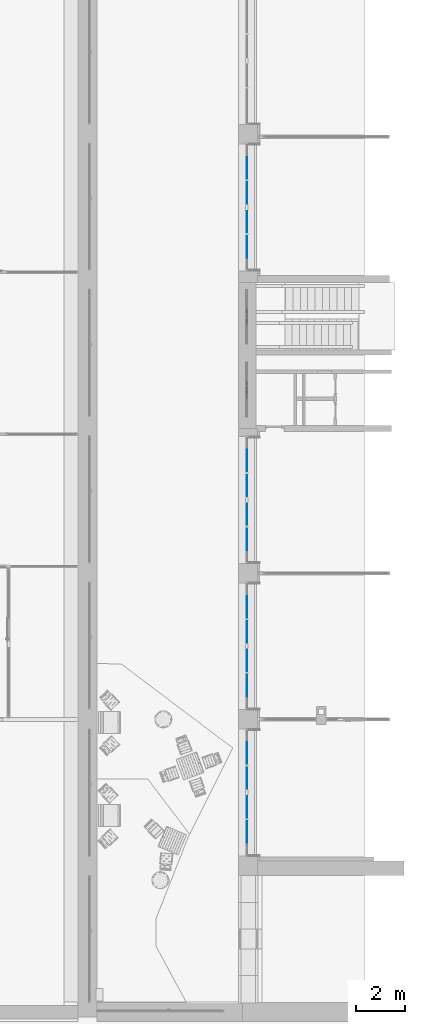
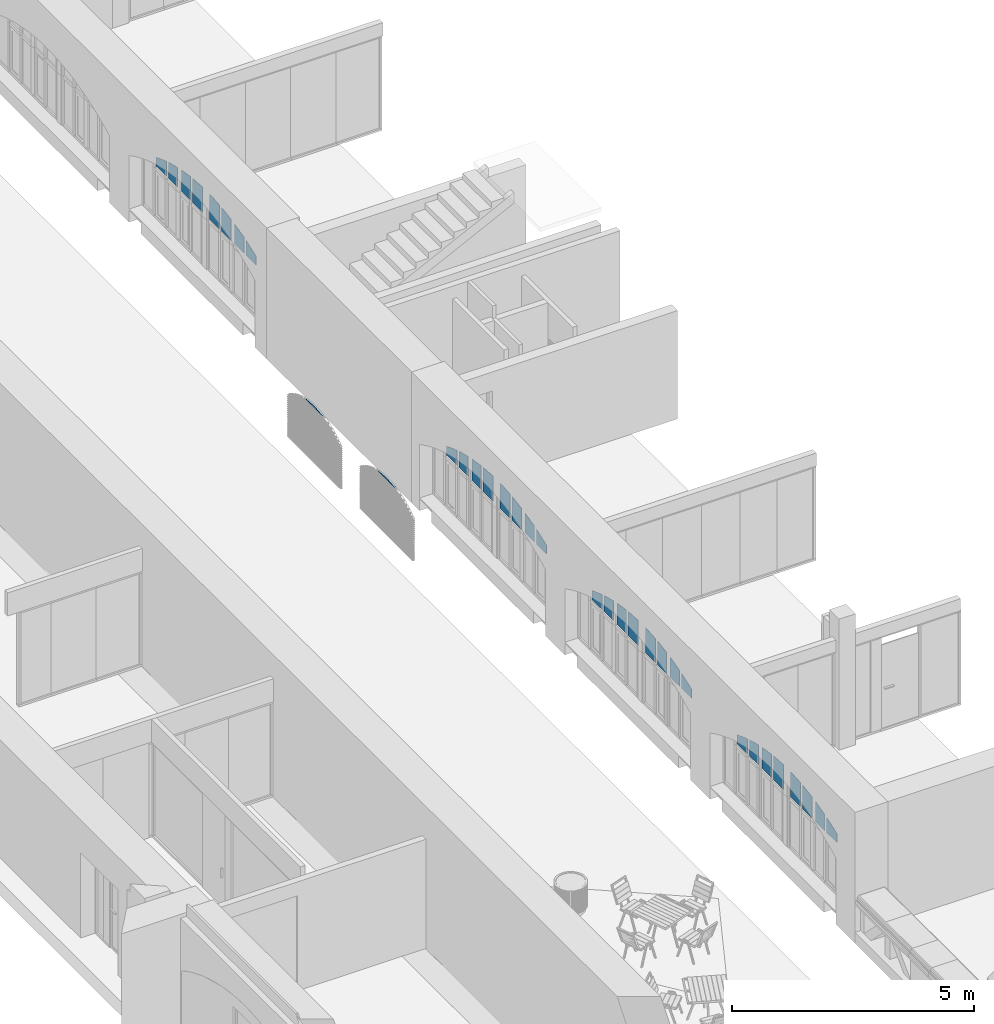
# One storey, part 68 of 88: 34 plates, 6 elements without a shape of their own.
"""IFC2X3 building model written with IfcOpenShell, lengths in millimetres."""

from ifc_helpers import new_model, entity, si_unit, converted_unit, derived_unit, direction, frame, frame_2d, origin, place, context, subcontext, project, spatial, polyline, circle_curve, parameter, trimmed, segment, composite_curve, outline, extrude, source, transform, mapped, material, type_object, type_shapes, element, aggregate, save


model = new_model("IFC2X3")

# Units and contexts
model_context = context("Model", 3, precision=0.01, world=origin(), true_north=direction((6.123031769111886e-17, 1.0)))
body_context = subcontext(model_context, "Body", "Model", "MODEL_VIEW")
ifc_project = project(units=[si_unit("LENGTHUNIT", "METRE", prefix="MILLI"), si_unit("AREAUNIT", "SQUARE_METRE"), si_unit("VOLUMEUNIT", "CUBIC_METRE"), converted_unit("PLANEANGLEUNIT", "DEGREE", entity("IfcPlaneAngleMeasure", 0.017453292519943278), si_unit("PLANEANGLEUNIT", "RADIAN"), dimensions=[0, 0, 0, 0, 0, 0, 0]), si_unit("MASSUNIT", "GRAM", prefix="KILO"), derived_unit("MASSDENSITYUNIT", [(si_unit("MASSUNIT", "GRAM", prefix="KILO"), 1), (si_unit("LENGTHUNIT", "METRE"), -3)]), derived_unit("IONCONCENTRATIONUNIT", [(si_unit("MASSUNIT", "GRAM", prefix="KILO"), 1), (si_unit("LENGTHUNIT", "METRE"), -3)]), derived_unit("MOMENTOFINERTIAUNIT", [(si_unit("LENGTHUNIT", "METRE"), 4)]), si_unit("TIMEUNIT", "SECOND"), si_unit("FREQUENCYUNIT", "HERTZ"), si_unit("THERMODYNAMICTEMPERATUREUNIT", "DEGREE_CELSIUS"), derived_unit("THERMALTRANSMITTANCEUNIT", [(si_unit("MASSUNIT", "GRAM", prefix="KILO"), 1), (si_unit("THERMODYNAMICTEMPERATUREUNIT", "KELVIN"), -1), (si_unit("TIMEUNIT", "SECOND"), -3)]), derived_unit("THERMALCONDUCTANCEUNIT", [(si_unit("MASSUNIT", "GRAM", prefix="KILO"), 1), (si_unit("THERMODYNAMICTEMPERATUREUNIT", "KELVIN"), -1), (si_unit("TIMEUNIT", "SECOND"), -3), (si_unit("LENGTHUNIT", "METRE"), 1)]), derived_unit("VOLUMETRICFLOWRATEUNIT", [(si_unit("LENGTHUNIT", "METRE", prefix="DECI"), 3), (si_unit("TIMEUNIT", "SECOND"), -1)]), derived_unit("MASSFLOWRATEUNIT", [(si_unit("MASSUNIT", "GRAM", prefix="KILO"), 1), (si_unit("TIMEUNIT", "SECOND"), -1)]), derived_unit("ROTATIONALFREQUENCYUNIT", [(si_unit("TIMEUNIT", "SECOND"), -1)]), si_unit("ELECTRICCURRENTUNIT", "AMPERE"), si_unit("ELECTRICVOLTAGEUNIT", "VOLT"), si_unit("POWERUNIT", "WATT"), si_unit("FORCEUNIT", "NEWTON", prefix="KILO"), si_unit("ILLUMINANCEUNIT", "LUX"), si_unit("LUMINOUSFLUXUNIT", "LUMEN"), si_unit("LUMINOUSINTENSITYUNIT", "CANDELA"), si_unit("ENERGYUNIT", "JOULE"), derived_unit("USERDEFINED", [(si_unit("MASSUNIT", "GRAM", prefix="KILO"), -1), (si_unit("LENGTHUNIT", "METRE"), -2), (si_unit("TIMEUNIT", "SECOND"), 3), (si_unit("LUMINOUSFLUXUNIT", "LUMEN"), 1)]), derived_unit("USERDEFINED", [(si_unit("MASSUNIT", "GRAM", prefix="KILO"), 1), (si_unit("TIMEUNIT", "SECOND"), -3), (si_unit("LENGTHUNIT", "METRE"), 3), (si_unit("ELECTRICCURRENTUNIT", "AMPERE"), -2)]), derived_unit("SOUNDPOWERUNIT", [(si_unit("MASSUNIT", "GRAM", prefix="KILO"), 1), (si_unit("TIMEUNIT", "SECOND"), -3), (si_unit("LENGTHUNIT", "METRE"), 2)]), derived_unit("SOUNDPRESSUREUNIT", [(si_unit("MASSUNIT", "GRAM", prefix="KILO"), 1), (si_unit("LENGTHUNIT", "METRE"), -1), (si_unit("TIMEUNIT", "SECOND"), -2)]), derived_unit("LINEARVELOCITYUNIT", [(si_unit("LENGTHUNIT", "METRE"), 1), (si_unit("TIMEUNIT", "SECOND"), -1)]), si_unit("PRESSUREUNIT", "PASCAL"), derived_unit("USERDEFINED", [(si_unit("MASSUNIT", "GRAM", prefix="KILO"), 1), (si_unit("LENGTHUNIT", "METRE"), -2), (si_unit("TIMEUNIT", "SECOND"), -2)]), derived_unit("LINEARFORCEUNIT", [(si_unit("MASSUNIT", "GRAM", prefix="KILO"), 1), (si_unit("TIMEUNIT", "SECOND"), -2)]), derived_unit("PLANARFORCEUNIT", [(si_unit("MASSUNIT", "GRAM", prefix="KILO"), 1), (si_unit("LENGTHUNIT", "METRE"), -1), (si_unit("TIMEUNIT", "SECOND"), -2)]), derived_unit("SPECIFICHEATCAPACITYUNIT", [(si_unit("THERMODYNAMICTEMPERATUREUNIT", "KELVIN"), -1), (si_unit("LENGTHUNIT", "METRE"), 2), (si_unit("TIMEUNIT", "SECOND"), -2)]), derived_unit("HEATFLUXDENSITYUNIT", [(si_unit("MASSUNIT", "GRAM", prefix="KILO"), 1), (si_unit("TIMEUNIT", "SECOND"), -3)]), derived_unit("HEATINGVALUEUNIT", [(si_unit("LENGTHUNIT", "METRE"), 2), (si_unit("TIMEUNIT", "SECOND"), -2)]), derived_unit("VAPORPERMEABILITYUNIT", [(si_unit("LENGTHUNIT", "METRE"), -1), (si_unit("TIMEUNIT", "SECOND"), 1)]), derived_unit("DYNAMICVISCOSITYUNIT", [(si_unit("MASSUNIT", "GRAM", prefix="KILO"), 1), (si_unit("TIMEUNIT", "SECOND"), -1), (si_unit("LENGTHUNIT", "METRE"), -1)]), derived_unit("THERMALEXPANSIONCOEFFICIENTUNIT", [(si_unit("THERMODYNAMICTEMPERATUREUNIT", "KELVIN"), -1)]), derived_unit("MODULUSOFELASTICITYUNIT", [(si_unit("MASSUNIT", "GRAM", prefix="KILO"), 1), (si_unit("LENGTHUNIT", "METRE"), -1), (si_unit("TIMEUNIT", "SECOND"), -2)]), derived_unit("ISOTHERMALMOISTURECAPACITYUNIT", [(si_unit("MASSUNIT", "GRAM", prefix="KILO"), -1), (si_unit("LENGTHUNIT", "METRE"), 3)]), derived_unit("MOISTUREDIFFUSIVITYUNIT", [(si_unit("TIMEUNIT", "SECOND"), -1), (si_unit("LENGTHUNIT", "METRE"), 2)]), derived_unit("MASSPERLENGTHUNIT", [(si_unit("MASSUNIT", "GRAM", prefix="KILO"), 1), (si_unit("LENGTHUNIT", "METRE"), -1)]), derived_unit("THERMALRESISTANCEUNIT", [(si_unit("MASSUNIT", "GRAM", prefix="KILO"), -1), (si_unit("TIMEUNIT", "SECOND"), 3), (si_unit("THERMODYNAMICTEMPERATUREUNIT", "KELVIN"), 1)]), derived_unit("ACCELERATIONUNIT", [(si_unit("LENGTHUNIT", "METRE"), 1), (si_unit("TIMEUNIT", "SECOND"), -2)]), derived_unit("ANGULARVELOCITYUNIT", [(si_unit("TIMEUNIT", "SECOND"), -1), (si_unit("PLANEANGLEUNIT", "RADIAN"), 1)]), derived_unit("LINEARSTIFFNESSUNIT", [(si_unit("MASSUNIT", "GRAM", prefix="KILO"), 1), (si_unit("TIMEUNIT", "SECOND"), -2)]), derived_unit("WARPINGCONSTANTUNIT", [(si_unit("LENGTHUNIT", "METRE"), 6)]), derived_unit("LINEARMOMENTUNIT", [(si_unit("MASSUNIT", "GRAM", prefix="KILO"), 1), (si_unit("LENGTHUNIT", "METRE"), 1), (si_unit("TIMEUNIT", "SECOND"), -2)]), derived_unit("TORQUEUNIT", [(si_unit("MASSUNIT", "GRAM", prefix="KILO"), 1), (si_unit("LENGTHUNIT", "METRE"), 2), (si_unit("TIMEUNIT", "SECOND"), -2)])], contexts=[model_context])

# Site, building, storey
site_placement = place(None, origin())
site = spatial("IfcSite", under=ifc_project, at=site_placement, Name="Default", CompositionType="ELEMENT")
building_placement = place(site_placement, origin())
building = spatial("IfcBuilding", under=site, at=building_placement, Name="Eesti Rahvusraamatukogu hoone renoveerimise projekteerimistööd", CompositionType="ELEMENT")
storey_placement = place(building_placement, origin())
storey = spatial("IfcBuildingStorey", under=building, at=storey_placement, Name="1. korrus", CompositionType="ELEMENT", Elevation=0.0)

# Curtain wall, plate
curtain_wall_type_1 = type_object("IfcCurtainWallType", Name="Curtain Wall:ol. olev MK vent. rest", PredefinedType="NOTDEFINED")
curtain_wall_1_placement = place(storey_placement, origin())
curtain_wall_1 = element("IfcCurtainWall", 1, at=curtain_wall_1_placement, inside=storey, type_object=curtain_wall_type_1, Name="Curtain Wall:ol. olev MK vent. rest", ObjectType="Curtain Wall:ol. olev MK vent. rest")
ifc_material_1 = material(Name="LUMION_dark steel window frames")
plate_type_1 = type_object("IfcPlateType", Name="System Panel:Solid", PredefinedType="CURTAIN_PANEL", material=ifc_material_1)
shared_shape_1 = source(origin(), body_context, "Body", "SweptSolid", [
    extrude(outline(composite_curve([segment(trimmed(circle_curve(frame_2d((0.0, 1782.877971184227), x_axis=(-0.22633799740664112, -0.9740488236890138)), 1814.9788061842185), [parameter(2.289563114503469)], [parameter(23.873576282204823)], True, "PARAMETER"), True, "CONTINUOUS"), segment(polyline([(339.8443861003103, 0.0), (-339.84438610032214, 0.0)]), True, "CONTINUOUS")], self_intersect=False)), frame((0.0, -25.0, 0.0), z_axis=(0.0, -1.0, 0.0), x_axis=(-1.0, 0.0, 0.0)), (0.0, 0.0, -1.0), 50.0),
])
type_shapes(plate_type_1, [shared_shape_1])
plate_1_placement = place(curtain_wall_1_placement, frame((-36445.0, 25908.977190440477, 1170.0), z_axis=(0.0, 0.0, 1.0), x_axis=(0.0, -1.0, 0.0)))
plate_1 = element("IfcPlate", 2, at=plate_1_placement, type_object=plate_type_1, material=ifc_material_1, Name="System Panel:Solid", ObjectType="System Panel:Solid", context=body_context, shape_type="MappedRepresentation", body=[
    mapped(shared_shape_1, transform((0.0, 0.0, 0.0), scale=1.0)),
])
aggregate(curtain_wall_1, [plate_1])

curtain_wall_2_placement = place(storey_placement, origin())
curtain_wall_2 = element("IfcCurtainWall", 3, at=curtain_wall_2_placement, inside=storey, type_object=curtain_wall_type_1, Name="Curtain Wall:ol. olev MK vent. rest", ObjectType="Curtain Wall:ol. olev MK vent. rest")
plate_2_placement = place(curtain_wall_2_placement, frame((-36445.0, 28897.61153148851, 1170.0), z_axis=(0.0, 0.0, 1.0), x_axis=(0.0, -1.0, 0.0)))
plate_2 = element("IfcPlate", 4, at=plate_2_placement, type_object=plate_type_1, material=ifc_material_1, Name="System Panel:Solid", ObjectType="System Panel:Solid", context=body_context, shape_type="MappedRepresentation", body=[
    mapped(shared_shape_1, transform((0.0, 0.0, 0.0), scale=1.0)),
])
aggregate(curtain_wall_2, [plate_2])

curtain_wall_type_2 = type_object("IfcCurtainWallType", Name="Curtain Wall:Ak-02", PredefinedType="NOTDEFINED")
curtain_wall_3_placement = place(storey_placement, origin())
curtain_wall_3 = element("IfcCurtainWall", 5, at=curtain_wall_3_placement, inside=storey, type_object=curtain_wall_type_2, Name="Curtain Wall:Ak-02", ObjectType="Curtain Wall:Ak-02")
ifc_material_2 = material(Name="EST. Klaas. 3x. Default")
plate_type_2 = type_object("IfcPlateType", Name="System Panel:Peegelaknad 6-16-4-16-4, paneel", PredefinedType="CURTAIN_PANEL", material=ifc_material_2)
shared_shape_2 = source(origin(), body_context, "Body", "SweptSolid", [
    extrude(outline(composite_curve([segment(polyline([(-150.7552484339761, -210.0), (74.7524576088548, -210.0)]), True, "CONTINUOUS"), segment(trimmed(circle_curve(frame_2d((-4960.899149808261, 1850.0), x_axis=(0.9570819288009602, -0.28981749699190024)), 5440.715680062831), [parameter(354.5983894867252)], [parameter(359.30346163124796)], True, "PARAMETER"), True, "CONTINUOUS"), segment(polyline([(226.7580392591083, 210.0), (-150.7552484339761, 210.0)]), True, "CONTINUOUS"), segment(polyline([(-150.7552484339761, 210.0), (-150.7552484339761, -210.0)]), True, "CONTINUOUS")], self_intersect=False)), frame((0.0, -5.0, 150.7552484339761), z_axis=(0.0, 1.0, 0.0), x_axis=(0.0, 0.0, 1.0)), (0.0, 0.0, 1.0), 10.0),
])
type_shapes(plate_type_2, [shared_shape_2])
plate_3_placement = place(curtain_wall_3_placement, frame((-36440.0, 35240.0, 3270.0), z_axis=(0.0, 0.0, 1.0), x_axis=(0.0, -1.0, 0.0)))
plate_3 = element("IfcPlate", 6, at=plate_3_placement, type_object=plate_type_2, material=ifc_material_2, Name="System Panel:Peegelaknad 6-16-4-16-4, paneel", ObjectType="System Panel:Peegelaknad 6-16-4-16-4, paneel", context=body_context, shape_type="MappedRepresentation", body=[
    mapped(shared_shape_2, transform((0.0, 0.0, 0.0), scale=1.0)),
])

curtain_wall_4_placement = place(storey_placement, origin())
curtain_wall_4 = element("IfcCurtainWall", 7, at=curtain_wall_4_placement, inside=storey, type_object=curtain_wall_type_2, Name="Curtain Wall:Ak-02", ObjectType="Curtain Wall:Ak-02")
plate_4_placement = place(curtain_wall_4_placement, frame((-36440.0, 23240.0, 3260.0), z_axis=(0.0, 0.0, 1.0), x_axis=(0.0, -1.0, 0.0)))
plate_4 = element("IfcPlate", 8, at=plate_4_placement, type_object=plate_type_2, material=ifc_material_2, Name="System Panel:Peegelaknad 6-16-4-16-4, paneel", ObjectType="System Panel:Peegelaknad 6-16-4-16-4, paneel", context=body_context, shape_type="MappedRepresentation", body=[
    mapped(shared_shape_2, transform((0.0, 0.0, 0.0), scale=1.0)),
])

curtain_wall_5_placement = place(storey_placement, origin())
curtain_wall_5 = element("IfcCurtainWall", 9, at=curtain_wall_5_placement, inside=storey, type_object=curtain_wall_type_2, Name="Curtain Wall:Ak-02", ObjectType="Curtain Wall:Ak-02")
plate_5_placement = place(curtain_wall_5_placement, frame((-36440.0, 17240.0, 3260.0), z_axis=(0.0, 0.0, 1.0), x_axis=(0.0, -1.0, 0.0)))
plate_5 = element("IfcPlate", 10, at=plate_5_placement, type_object=plate_type_2, material=ifc_material_2, Name="System Panel:Peegelaknad 6-16-4-16-4, paneel", ObjectType="System Panel:Peegelaknad 6-16-4-16-4, paneel", context=body_context, shape_type="MappedRepresentation", body=[
    mapped(shared_shape_2, transform((0.0, 0.0, 0.0), scale=1.0)),
])

curtain_wall_6_placement = place(storey_placement, origin())
curtain_wall_6 = element("IfcCurtainWall", 11, at=curtain_wall_6_placement, inside=storey, type_object=curtain_wall_type_2, Name="Curtain Wall:Ak-02", ObjectType="Curtain Wall:Ak-02")
plate_6_placement = place(curtain_wall_6_placement, frame((-36440.0, 11240.0, 3260.0), z_axis=(0.0, 0.0, 1.0), x_axis=(0.0, -1.0, 0.0)))
plate_6 = element("IfcPlate", 12, at=plate_6_placement, type_object=plate_type_2, material=ifc_material_2, Name="System Panel:Peegelaknad 6-16-4-16-4, paneel", ObjectType="System Panel:Peegelaknad 6-16-4-16-4, paneel", context=body_context, shape_type="MappedRepresentation", body=[
    mapped(shared_shape_2, transform((0.0, 0.0, 0.0), scale=1.0)),
])

# Plate
plate_type_3 = type_object("IfcPlateType", Name="System Panel:Peegelaknad 6-16-4-16-4, paneel", PredefinedType="CURTAIN_PANEL", material=ifc_material_2)
shared_shape_3 = source(origin(), body_context, "Body", "SweptSolid", [
    extrude(outline(composite_curve([segment(polyline([(-226.07666547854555, -192.49999999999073), (176.05217268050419, -192.49999999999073)]), True, "CONTINUOUS"), segment(trimmed(circle_curve(frame_2d((-5036.220566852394, 1367.4999999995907), x_axis=(0.9799487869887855, -0.1992495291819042)), 5440.715680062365), [parameter(354.83097054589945)], [parameter(359.02097398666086)], True, "PARAMETER"), True, "CONTINUOUS"), segment(polyline([(276.1011582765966, 192.5000000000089), (-226.07666547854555, 192.5000000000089)]), True, "CONTINUOUS"), segment(polyline([(-226.07666547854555, 192.5000000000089), (-226.07666547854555, -192.49999999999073)]), True, "CONTINUOUS")], self_intersect=False)), frame((0.0, -5.0, 226.07666547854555), z_axis=(0.0, 1.0, 0.0), x_axis=(0.0, 0.0, 1.0)), (0.0, 0.0, 1.0), 10.0),
])
type_shapes(plate_type_3, [shared_shape_3])
plate_7_placement = place(curtain_wall_3_placement, frame((-36440.0, 34757.49999999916, 3270.0), z_axis=(0.0, 0.0, 1.0), x_axis=(0.0, -1.0, 0.0)))
plate_7 = element("IfcPlate", 13, at=plate_7_placement, type_object=plate_type_3, material=ifc_material_2, Name="System Panel:Peegelaknad 6-16-4-16-4, paneel", ObjectType="System Panel:Peegelaknad 6-16-4-16-4, paneel", context=body_context, shape_type="MappedRepresentation", body=[
    mapped(shared_shape_3, transform((0.0, 0.0, 0.0), scale=1.0)),
])

plate_8_placement = place(curtain_wall_4_placement, frame((-36440.0, 22757.49999999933, 3260.0), z_axis=(0.0, 0.0, 1.0), x_axis=(0.0, -1.0, 0.0)))
plate_8 = element("IfcPlate", 14, at=plate_8_placement, type_object=plate_type_3, material=ifc_material_2, Name="System Panel:Peegelaknad 6-16-4-16-4, paneel", ObjectType="System Panel:Peegelaknad 6-16-4-16-4, paneel", context=body_context, shape_type="MappedRepresentation", body=[
    mapped(shared_shape_3, transform((0.0, 0.0, 0.0), scale=1.0)),
])

plate_9_placement = place(curtain_wall_5_placement, frame((-36440.0, 16757.49999999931, 3260.0), z_axis=(0.0, 0.0, 1.0), x_axis=(0.0, -1.0, 0.0)))
plate_9 = element("IfcPlate", 15, at=plate_9_placement, type_object=plate_type_3, material=ifc_material_2, Name="System Panel:Peegelaknad 6-16-4-16-4, paneel", ObjectType="System Panel:Peegelaknad 6-16-4-16-4, paneel", context=body_context, shape_type="MappedRepresentation", body=[
    mapped(shared_shape_3, transform((0.0, 0.0, 0.0), scale=1.0)),
])

plate_10_placement = place(curtain_wall_6_placement, frame((-36440.0, 10757.499999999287, 3260.0), z_axis=(0.0, 0.0, 1.0), x_axis=(0.0, -1.0, 0.0)))
plate_10 = element("IfcPlate", 16, at=plate_10_placement, type_object=plate_type_3, material=ifc_material_2, Name="System Panel:Peegelaknad 6-16-4-16-4, paneel", ObjectType="System Panel:Peegelaknad 6-16-4-16-4, paneel", context=body_context, shape_type="MappedRepresentation", body=[
    mapped(shared_shape_3, transform((0.0, 0.0, 0.0), scale=1.0)),
])

plate_type_4 = type_object("IfcPlateType", Name="System Panel:Peegelaknad 6-16-4-16-4, paneel", PredefinedType="CURTAIN_PANEL", material=ifc_material_2)
shared_shape_4 = source(origin(), body_context, "Body", "SweptSolid", [
    extrude(outline(composite_curve([segment(polyline([(-281.48649121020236, -192.4999999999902), (251.66092562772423, -192.4999999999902)]), True, "CONTINUOUS"), segment(trimmed(circle_curve(frame_2d((-5091.630392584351, 832.4999999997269), x_axis=(0.994076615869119, -0.10868156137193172)), 5440.715680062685), [parameter(355.38022484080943)], [parameter(359.4838847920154)], True, "PARAMETER"), True, "CONTINUOUS"), segment(polyline([(311.31205679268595, 192.50000000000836), (-281.48649121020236, 192.50000000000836)]), True, "CONTINUOUS"), segment(polyline([(-281.48649121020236, 192.50000000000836), (-281.48649121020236, -192.4999999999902)]), True, "CONTINUOUS")], self_intersect=False)), frame((0.0, -5.0, 281.48649121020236), z_axis=(0.0, 1.0, 0.0), x_axis=(0.0, 0.0, 1.0)), (0.0, 0.0, 1.0), 10.0),
])
type_shapes(plate_type_4, [shared_shape_4])
plate_11_placement = place(curtain_wall_3_placement, frame((-36440.0, 34222.49999999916, 3270.0), z_axis=(0.0, 0.0, 1.0), x_axis=(0.0, -1.0, 0.0)))
plate_11 = element("IfcPlate", 17, at=plate_11_placement, type_object=plate_type_4, material=ifc_material_2, Name="System Panel:Peegelaknad 6-16-4-16-4, paneel", ObjectType="System Panel:Peegelaknad 6-16-4-16-4, paneel", context=body_context, shape_type="MappedRepresentation", body=[
    mapped(shared_shape_4, transform((0.0, 0.0, 0.0), scale=1.0)),
])

plate_12_placement = place(curtain_wall_4_placement, frame((-36440.0, 22222.49999999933, 3260.0), z_axis=(0.0, 0.0, 1.0), x_axis=(0.0, -1.0, 0.0)))
plate_12 = element("IfcPlate", 18, at=plate_12_placement, type_object=plate_type_4, material=ifc_material_2, Name="System Panel:Peegelaknad 6-16-4-16-4, paneel", ObjectType="System Panel:Peegelaknad 6-16-4-16-4, paneel", context=body_context, shape_type="MappedRepresentation", body=[
    mapped(shared_shape_4, transform((0.0, 0.0, 0.0), scale=1.0)),
])

plate_13_placement = place(curtain_wall_5_placement, frame((-36440.0, 16222.499999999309, 3260.0), z_axis=(0.0, 0.0, 1.0), x_axis=(0.0, -1.0, 0.0)))
plate_13 = element("IfcPlate", 19, at=plate_13_placement, type_object=plate_type_4, material=ifc_material_2, Name="System Panel:Peegelaknad 6-16-4-16-4, paneel", ObjectType="System Panel:Peegelaknad 6-16-4-16-4, paneel", context=body_context, shape_type="MappedRepresentation", body=[
    mapped(shared_shape_4, transform((0.0, 0.0, 0.0), scale=1.0)),
])

plate_14_placement = place(curtain_wall_6_placement, frame((-36440.0, 10222.499999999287, 3260.0), z_axis=(0.0, 0.0, 1.0), x_axis=(0.0, -1.0, 0.0)))
plate_14 = element("IfcPlate", 20, at=plate_14_placement, type_object=plate_type_4, material=ifc_material_2, Name="System Panel:Peegelaknad 6-16-4-16-4, paneel", ObjectType="System Panel:Peegelaknad 6-16-4-16-4, paneel", context=body_context, shape_type="MappedRepresentation", body=[
    mapped(shared_shape_4, transform((0.0, 0.0, 0.0), scale=1.0)),
])

plate_type_5 = type_object("IfcPlateType", Name="System Panel:Peegelaknad 6-16-4-16-4, paneel", PredefinedType="CURTAIN_PANEL", material=ifc_material_2)
shared_shape_5 = source(origin(), body_context, "Body", "SweptSolid", [
    extrude(outline(composite_curve([segment(polyline([(-307.5447367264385, -205.0), (294.13056723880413, -205.0)]), True, "CONTINUOUS"), segment(trimmed(circle_curve(frame_2d((-5117.688638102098, 355.0), x_axis=(1.0, 0.0)), 5440.715680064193), [parameter(354.0922181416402)], [parameter(358.42016077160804)], True, "PARAMETER"), True, "CONTINUOUS"), segment(polyline([(320.95890621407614, 205.0), (-307.5447367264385, 205.0)]), True, "CONTINUOUS"), segment(polyline([(-307.5447367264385, 205.0), (-307.5447367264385, -205.0)]), True, "CONTINUOUS")], self_intersect=False)), frame((0.0, -5.0, 307.5447367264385), z_axis=(0.0, 1.0, 0.0), x_axis=(0.0, 0.0, 1.0)), (0.0, 0.0, 1.0), 10.0),
])
type_shapes(plate_type_5, [shared_shape_5])
plate_15_placement = place(curtain_wall_3_placement, frame((-36440.0, 33745.0, 3270.0), z_axis=(0.0, 0.0, 1.0), x_axis=(0.0, -1.0, 0.0)))
plate_15 = element("IfcPlate", 21, at=plate_15_placement, type_object=plate_type_5, material=ifc_material_2, Name="System Panel:Peegelaknad 6-16-4-16-4, paneel", ObjectType="System Panel:Peegelaknad 6-16-4-16-4, paneel", context=body_context, shape_type="MappedRepresentation", body=[
    mapped(shared_shape_5, transform((0.0, 0.0, 0.0), scale=1.0)),
])

plate_16_placement = place(curtain_wall_4_placement, frame((-36440.0, 21745.0, 3260.0), z_axis=(0.0, 0.0, 1.0), x_axis=(0.0, -1.0, 0.0)))
plate_16 = element("IfcPlate", 22, at=plate_16_placement, type_object=plate_type_5, material=ifc_material_2, Name="System Panel:Peegelaknad 6-16-4-16-4, paneel", ObjectType="System Panel:Peegelaknad 6-16-4-16-4, paneel", context=body_context, shape_type="MappedRepresentation", body=[
    mapped(shared_shape_5, transform((0.0, 0.0, 0.0), scale=1.0)),
])

plate_17_placement = place(curtain_wall_5_placement, frame((-36440.0, 15745.0, 3260.0), z_axis=(0.0, 0.0, 1.0), x_axis=(0.0, -1.0, 0.0)))
plate_17 = element("IfcPlate", 23, at=plate_17_placement, type_object=plate_type_5, material=ifc_material_2, Name="System Panel:Peegelaknad 6-16-4-16-4, paneel", ObjectType="System Panel:Peegelaknad 6-16-4-16-4, paneel", context=body_context, shape_type="MappedRepresentation", body=[
    mapped(shared_shape_5, transform((0.0, 0.0, 0.0), scale=1.0)),
])

plate_18_placement = place(curtain_wall_6_placement, frame((-36440.0, 9745.0, 3260.0), z_axis=(0.0, 0.0, 1.0), x_axis=(0.0, -1.0, 0.0)))
plate_18 = element("IfcPlate", 24, at=plate_18_placement, type_object=plate_type_5, material=ifc_material_2, Name="System Panel:Peegelaknad 6-16-4-16-4, paneel", ObjectType="System Panel:Peegelaknad 6-16-4-16-4, paneel", context=body_context, shape_type="MappedRepresentation", body=[
    mapped(shared_shape_5, transform((0.0, 0.0, 0.0), scale=1.0)),
])

plate_type_6 = type_object("IfcPlateType", Name="System Panel:Peegelaknad 6-16-4-16-4, paneel", PredefinedType="CURTAIN_PANEL", material=ifc_material_2)
shared_shape_6 = source(origin(), body_context, "Body", "SweptSolid", [
    extrude(outline(composite_curve([segment(polyline([(-307.5447367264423, 205.0), (-307.5447367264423, -205.0)]), True, "CONTINUOUS"), segment(polyline([(-307.5447367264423, -205.0), (294.1305672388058, -205.0)]), True, "CONTINUOUS"), segment(trimmed(circle_curve(frame_2d((-5117.68863809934, 355.0), x_axis=(0.994076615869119, -0.10868156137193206)), 5440.715680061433), [parameter(0.33153708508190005)], [parameter(4.659479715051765)], True, "PARAMETER"), True, "CONTINUOUS"), segment(polyline([(320.9589062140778, 205.0), (-307.5447367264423, 205.0)]), True, "CONTINUOUS")], self_intersect=False)), frame((0.0, -5.0, 307.5447367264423), z_axis=(0.0, -1.0, 0.0), x_axis=(0.0, 0.0, 1.0)), (0.0, 0.0, -1.0), 10.0),
])
type_shapes(plate_type_6, [shared_shape_6])
plate_19_placement = place(curtain_wall_3_placement, frame((-36440.0, 33035.0, 3270.0), z_axis=(0.0, 0.0, 1.0), x_axis=(0.0, -1.0, 0.0)))
plate_19 = element("IfcPlate", 25, at=plate_19_placement, type_object=plate_type_6, material=ifc_material_2, Name="System Panel:Peegelaknad 6-16-4-16-4, paneel", ObjectType="System Panel:Peegelaknad 6-16-4-16-4, paneel", context=body_context, shape_type="MappedRepresentation", body=[
    mapped(shared_shape_6, transform((0.0, 0.0, 0.0), scale=1.0)),
])

plate_20_placement = place(curtain_wall_4_placement, frame((-36440.0, 21035.0, 3260.0), z_axis=(0.0, 0.0, 1.0), x_axis=(0.0, -1.0, 0.0)))
plate_20 = element("IfcPlate", 26, at=plate_20_placement, type_object=plate_type_6, material=ifc_material_2, Name="System Panel:Peegelaknad 6-16-4-16-4, paneel", ObjectType="System Panel:Peegelaknad 6-16-4-16-4, paneel", context=body_context, shape_type="MappedRepresentation", body=[
    mapped(shared_shape_6, transform((0.0, 0.0, 0.0), scale=1.0)),
])

plate_21_placement = place(curtain_wall_5_placement, frame((-36440.0, 15035.0, 3260.0), z_axis=(0.0, 0.0, 1.0), x_axis=(0.0, -1.0, 0.0)))
plate_21 = element("IfcPlate", 27, at=plate_21_placement, type_object=plate_type_6, material=ifc_material_2, Name="System Panel:Peegelaknad 6-16-4-16-4, paneel", ObjectType="System Panel:Peegelaknad 6-16-4-16-4, paneel", context=body_context, shape_type="MappedRepresentation", body=[
    mapped(shared_shape_6, transform((0.0, 0.0, 0.0), scale=1.0)),
])

plate_22_placement = place(curtain_wall_6_placement, frame((-36440.0, 9035.0, 3260.0), z_axis=(0.0, 0.0, 1.0), x_axis=(0.0, -1.0, 0.0)))
plate_22 = element("IfcPlate", 28, at=plate_22_placement, type_object=plate_type_6, material=ifc_material_2, Name="System Panel:Peegelaknad 6-16-4-16-4, paneel", ObjectType="System Panel:Peegelaknad 6-16-4-16-4, paneel", context=body_context, shape_type="MappedRepresentation", body=[
    mapped(shared_shape_6, transform((0.0, 0.0, 0.0), scale=1.0)),
])

plate_type_7 = type_object("IfcPlateType", Name="System Panel:Peegelaknad 6-16-4-16-4, paneel", PredefinedType="CURTAIN_PANEL", material=ifc_material_2)
shared_shape_7 = source(origin(), body_context, "Body", "SweptSolid", [
    extrude(outline(composite_curve([segment(polyline([(-281.4864912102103, 192.49999999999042), (-281.48649121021, -192.50000000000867)]), True, "CONTINUOUS"), segment(polyline([(-281.48649121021, -192.50000000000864), (251.66092562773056, -192.50000000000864)]), True, "CONTINUOUS"), segment(trimmed(circle_curve(frame_2d((-5091.6303925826, 832.4999999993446), x_axis=(0.9799487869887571, -0.1992495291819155)), 5440.715680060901), [parameter(0.6339828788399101)], [parameter(4.737642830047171)], True, "PARAMETER"), True, "CONTINUOUS"), segment(polyline([(311.3120567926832, 192.49999999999), (-281.4864912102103, 192.49999999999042)]), True, "CONTINUOUS")], self_intersect=False)), frame((0.0, -5.0, 281.48649121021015), z_axis=(0.0, -1.0, 0.0), x_axis=(0.0, 0.0, 1.0)), (0.0, 0.0, -1.0), 10.0),
])
type_shapes(plate_type_7, [shared_shape_7])
plate_23_placement = place(curtain_wall_3_placement, frame((-36440.0, 32557.499999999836, 3270.0), z_axis=(0.0, 0.0, 1.0), x_axis=(0.0, -1.0, 0.0)))
plate_23 = element("IfcPlate", 29, at=plate_23_placement, type_object=plate_type_7, material=ifc_material_2, Name="System Panel:Peegelaknad 6-16-4-16-4, paneel", ObjectType="System Panel:Peegelaknad 6-16-4-16-4, paneel", context=body_context, shape_type="MappedRepresentation", body=[
    mapped(shared_shape_7, transform((0.0, 0.0, 0.0), scale=1.0)),
])

plate_24_placement = place(curtain_wall_4_placement, frame((-36440.0, 20557.500000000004, 3260.0), z_axis=(0.0, 0.0, 1.0), x_axis=(0.0, -1.0, 0.0)))
plate_24 = element("IfcPlate", 30, at=plate_24_placement, type_object=plate_type_7, material=ifc_material_2, Name="System Panel:Peegelaknad 6-16-4-16-4, paneel", ObjectType="System Panel:Peegelaknad 6-16-4-16-4, paneel", context=body_context, shape_type="MappedRepresentation", body=[
    mapped(shared_shape_7, transform((0.0, 0.0, 0.0), scale=1.0)),
])

plate_25_placement = place(curtain_wall_5_placement, frame((-36440.0, 14557.499999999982, 3260.0), z_axis=(0.0, 0.0, 1.0), x_axis=(0.0, -1.0, 0.0)))
plate_25 = element("IfcPlate", 31, at=plate_25_placement, type_object=plate_type_7, material=ifc_material_2, Name="System Panel:Peegelaknad 6-16-4-16-4, paneel", ObjectType="System Panel:Peegelaknad 6-16-4-16-4, paneel", context=body_context, shape_type="MappedRepresentation", body=[
    mapped(shared_shape_7, transform((0.0, 0.0, 0.0), scale=1.0)),
])

plate_26_placement = place(curtain_wall_6_placement, frame((-36440.0, 8557.49999999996, 3260.0), z_axis=(0.0, 0.0, 1.0), x_axis=(0.0, -1.0, 0.0)))
plate_26 = element("IfcPlate", 32, at=plate_26_placement, type_object=plate_type_7, material=ifc_material_2, Name="System Panel:Peegelaknad 6-16-4-16-4, paneel", ObjectType="System Panel:Peegelaknad 6-16-4-16-4, paneel", context=body_context, shape_type="MappedRepresentation", body=[
    mapped(shared_shape_7, transform((0.0, 0.0, 0.0), scale=1.0)),
])

plate_type_8 = type_object("IfcPlateType", Name="System Panel:Peegelaknad 6-16-4-16-4, paneel", PredefinedType="CURTAIN_PANEL", material=ifc_material_2)
shared_shape_8 = source(origin(), body_context, "Body", "SweptSolid", [
    extrude(outline(composite_curve([segment(polyline([(-226.07666547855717, 192.49999999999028), (-226.07666547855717, -192.50000000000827)]), True, "CONTINUOUS"), segment(polyline([(-226.07666547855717, -192.50000000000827), (176.0521726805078, -192.50000000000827)]), True, "CONTINUOUS"), segment(trimmed(circle_curve(frame_2d((-5036.220566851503, 1367.4999999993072), x_axis=(0.9570819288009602, -0.2898174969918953)), 5440.715680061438), [parameter(0.18492371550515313)], [parameter(4.374927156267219)], True, "PARAMETER"), True, "CONTINUOUS"), segment(polyline([(276.10115827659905, 192.49999999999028), (-226.07666547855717, 192.49999999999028)]), True, "CONTINUOUS")], self_intersect=False)), frame((0.0, -5.0, 226.07666547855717), z_axis=(0.0, -1.0, 0.0), x_axis=(0.0, 0.0, 1.0)), (0.0, 0.0, -1.0), 10.0),
])
type_shapes(plate_type_8, [shared_shape_8])
plate_27_placement = place(curtain_wall_3_placement, frame((-36440.0, 32022.499999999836, 3270.0), z_axis=(0.0, 0.0, 1.0), x_axis=(0.0, -1.0, 0.0)))
plate_27 = element("IfcPlate", 33, at=plate_27_placement, type_object=plate_type_8, material=ifc_material_2, Name="System Panel:Peegelaknad 6-16-4-16-4, paneel", ObjectType="System Panel:Peegelaknad 6-16-4-16-4, paneel", context=body_context, shape_type="MappedRepresentation", body=[
    mapped(shared_shape_8, transform((0.0, 0.0, 0.0), scale=1.0)),
])

plate_28_placement = place(curtain_wall_4_placement, frame((-36440.0, 20022.500000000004, 3260.0), z_axis=(0.0, 0.0, 1.0), x_axis=(0.0, -1.0, 0.0)))
plate_28 = element("IfcPlate", 34, at=plate_28_placement, type_object=plate_type_8, material=ifc_material_2, Name="System Panel:Peegelaknad 6-16-4-16-4, paneel", ObjectType="System Panel:Peegelaknad 6-16-4-16-4, paneel", context=body_context, shape_type="MappedRepresentation", body=[
    mapped(shared_shape_8, transform((0.0, 0.0, 0.0), scale=1.0)),
])

plate_29_placement = place(curtain_wall_5_placement, frame((-36440.0, 14022.499999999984, 3260.0), z_axis=(0.0, 0.0, 1.0), x_axis=(0.0, -1.0, 0.0)))
plate_29 = element("IfcPlate", 35, at=plate_29_placement, type_object=plate_type_8, material=ifc_material_2, Name="System Panel:Peegelaknad 6-16-4-16-4, paneel", ObjectType="System Panel:Peegelaknad 6-16-4-16-4, paneel", context=body_context, shape_type="MappedRepresentation", body=[
    mapped(shared_shape_8, transform((0.0, 0.0, 0.0), scale=1.0)),
])

plate_30_placement = place(curtain_wall_6_placement, frame((-36440.0, 8022.499999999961, 3260.0), z_axis=(0.0, 0.0, 1.0), x_axis=(0.0, -1.0, 0.0)))
plate_30 = element("IfcPlate", 36, at=plate_30_placement, type_object=plate_type_8, material=ifc_material_2, Name="System Panel:Peegelaknad 6-16-4-16-4, paneel", ObjectType="System Panel:Peegelaknad 6-16-4-16-4, paneel", context=body_context, shape_type="MappedRepresentation", body=[
    mapped(shared_shape_8, transform((0.0, 0.0, 0.0), scale=1.0)),
])

plate_type_9 = type_object("IfcPlateType", Name="System Panel:Peegelaknad 6-16-4-16-4, paneel", PredefinedType="CURTAIN_PANEL", material=ifc_material_2)
shared_shape_9 = source(origin(), body_context, "Body", "SweptSolid", [
    extrude(outline(composite_curve([segment(polyline([(-150.75524843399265, 210.0), (-150.75524843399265, -210.0)]), True, "CONTINUOUS"), segment(polyline([(-150.75524843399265, -210.0), (74.75245760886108, -210.0)]), True, "CONTINUOUS"), segment(trimmed(circle_curve(frame_2d((-4960.899149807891, 1850.0), x_axis=(0.9248280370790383, -0.3803854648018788)), 5440.715680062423), [parameter(0.1089206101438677)], [parameter(4.8139927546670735)], True, "PARAMETER"), True, "CONTINUOUS"), segment(polyline([(226.75803925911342, 210.0), (-150.75524843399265, 210.0)]), True, "CONTINUOUS")], self_intersect=False)), frame((0.0, -5.0, 150.75524843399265), z_axis=(0.0, -1.0, 0.0), x_axis=(0.0, 0.0, 1.0)), (0.0, 0.0, -1.0), 10.0),
])
type_shapes(plate_type_9, [shared_shape_9])
plate_31_placement = place(curtain_wall_3_placement, frame((-36440.0, 31540.0, 3270.0), z_axis=(0.0, 0.0, 1.0), x_axis=(0.0, -1.0, 0.0)))
plate_31 = element("IfcPlate", 37, at=plate_31_placement, type_object=plate_type_9, material=ifc_material_2, Name="System Panel:Peegelaknad 6-16-4-16-4, paneel", ObjectType="System Panel:Peegelaknad 6-16-4-16-4, paneel", context=body_context, shape_type="MappedRepresentation", body=[
    mapped(shared_shape_9, transform((0.0, 0.0, 0.0), scale=1.0)),
])

aggregate(curtain_wall_3, [plate_3, plate_7, plate_11, plate_15, plate_19, plate_23, plate_27, plate_31])

plate_32_placement = place(curtain_wall_4_placement, frame((-36440.0, 19540.0, 3260.0), z_axis=(0.0, 0.0, 1.0), x_axis=(0.0, -1.0, 0.0)))
plate_32 = element("IfcPlate", 38, at=plate_32_placement, type_object=plate_type_9, material=ifc_material_2, Name="System Panel:Peegelaknad 6-16-4-16-4, paneel", ObjectType="System Panel:Peegelaknad 6-16-4-16-4, paneel", context=body_context, shape_type="MappedRepresentation", body=[
    mapped(shared_shape_9, transform((0.0, 0.0, 0.0), scale=1.0)),
])

aggregate(curtain_wall_4, [plate_4, plate_8, plate_12, plate_16, plate_20, plate_24, plate_28, plate_32])

plate_33_placement = place(curtain_wall_5_placement, frame((-36440.0, 13540.0, 3260.0), z_axis=(0.0, 0.0, 1.0), x_axis=(0.0, -1.0, 0.0)))
plate_33 = element("IfcPlate", 39, at=plate_33_placement, type_object=plate_type_9, material=ifc_material_2, Name="System Panel:Peegelaknad 6-16-4-16-4, paneel", ObjectType="System Panel:Peegelaknad 6-16-4-16-4, paneel", context=body_context, shape_type="MappedRepresentation", body=[
    mapped(shared_shape_9, transform((0.0, 0.0, 0.0), scale=1.0)),
])

aggregate(curtain_wall_5, [plate_5, plate_9, plate_13, plate_17, plate_21, plate_25, plate_29, plate_33])

plate_34_placement = place(curtain_wall_6_placement, frame((-36440.0, 7540.0, 3260.0), z_axis=(0.0, 0.0, 1.0), x_axis=(0.0, -1.0, 0.0)))
plate_34 = element("IfcPlate", 40, at=plate_34_placement, type_object=plate_type_9, material=ifc_material_2, Name="System Panel:Peegelaknad 6-16-4-16-4, paneel", ObjectType="System Panel:Peegelaknad 6-16-4-16-4, paneel", context=body_context, shape_type="MappedRepresentation", body=[
    mapped(shared_shape_9, transform((0.0, 0.0, 0.0), scale=1.0)),
])

aggregate(curtain_wall_6, [plate_6, plate_10, plate_14, plate_18, plate_22, plate_26, plate_30, plate_34])

save(model, "model.ifc")
